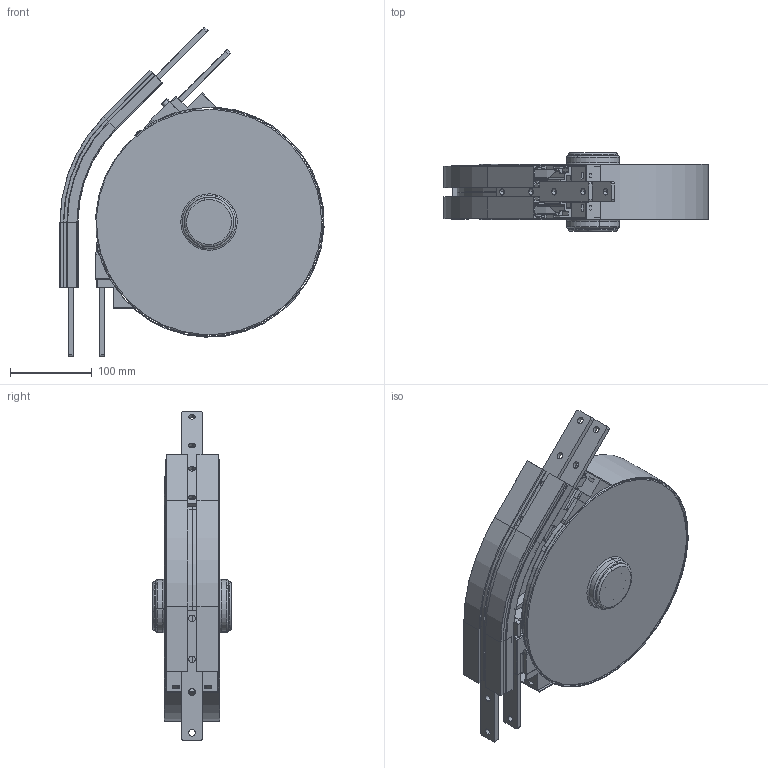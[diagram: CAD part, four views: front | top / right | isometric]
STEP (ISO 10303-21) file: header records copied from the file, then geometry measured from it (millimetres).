
FILE_DESCRIPTION (( 'STEP AP214' ), '1' );
FILE_NAME ('FSWB45R150A.STEP', '2012-03-21T15:02:01', ( 'gs' ), ( 'Microsoft' ), 'SwSTEP 2.0', 'SolidWorks 2011', '' );
FILE_SCHEMA (( 'AUTOMOTIVE_DESIGN' ));
Length unit declared in the file: millimetre
Products named in the file (14): WH08001-3_btm; protection_90; FASR-25_180R150_45<Brut d''usinage>; WH08001-3_top; WH63003; WH63001-3; 6004ZZ; FACS-25X160-M2; M6X16 CAP SCREW; FSWB180R150-CB_45<Brut d''usinage>; WH278063; FAEC-WH; 20 ExternalCirclip; FSWB45R150A
Assembly tree (30 placements, depth 2):
  FSWB45R150A
    M6X16 CAP SCREW  x4
    FASR-25_180R150_45<Brut d''usinage>  x2
    WH63001-3  x2
    20 ExternalCirclip  x5
    WH278063  x2
    WH08001-3_top
    FACS-25X160-M2  x4
    WH63003
    protection_90
    FSWB180R150-CB_45<Brut d''usinage>
    FAEC-WH  x2
    6004ZZ  x4
    WH08001-3_btm
Bounding box: 323.35 x 96.4 x 403.99 mm (x, y, z)
Volume: 1641734.3 mm3; surface area: 728950.5 mm2
Topology: 30 solids, 30 shells, 1971 faces, 5001 edges, 3178 vertices
Faces by surface type: plane 856, cylinder 584, cone 244, bspline 190, torus 97
Entity records: 40298 total; most frequent: CARTESIAN_POINT 15757, ORIENTED_EDGE 5092, DIRECTION 4784, EDGE_CURVE 2546, AXIS2_PLACEMENT_3D 1642, VERTEX_POINT 1615, VECTOR 1500, LINE 1500
